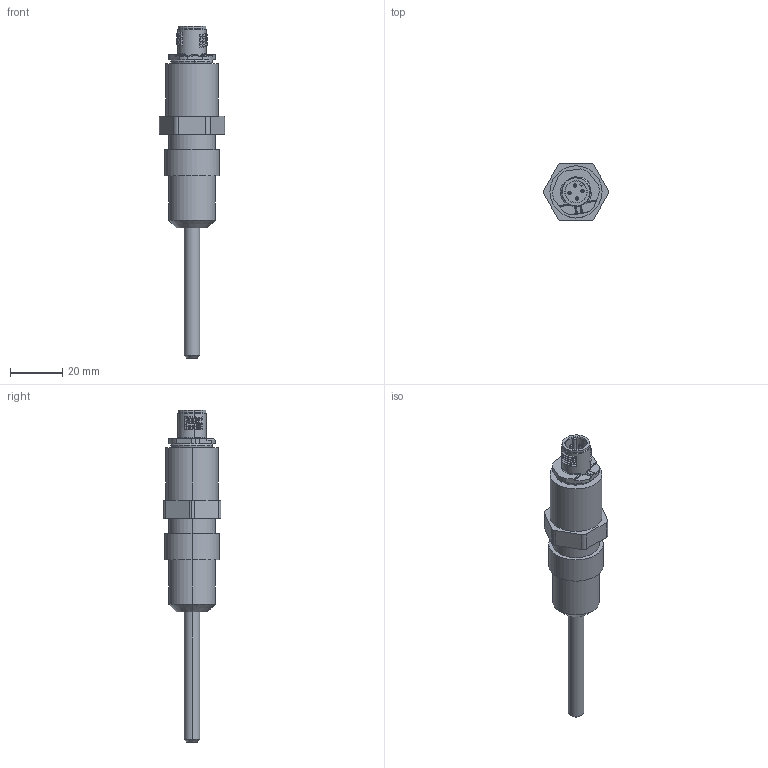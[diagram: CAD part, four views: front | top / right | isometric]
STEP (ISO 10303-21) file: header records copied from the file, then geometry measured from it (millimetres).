
FILE_DESCRIPTION (( 'STEP AP214' ), '1' );
FILE_NAME ('TF420.STEP', '2022-12-02T13:15:21', ( '' ), ( '' ), 'SwSTEP 2.0', 'SolidWorks 2015', '' );
FILE_SCHEMA (( 'AUTOMOTIVE_DESIGN' ));
Length unit declared in the file: millimetre
Products named in the file (3): Conector M12 Macho; TF420; TF420001
Assembly tree (2 placements, depth 2):
  TF420
    TF420001
    Conector M12 Macho
Bounding box: 25.04 x 22.22 x 127.59 mm (x, y, z)
Volume: 10576.7 mm3; surface area: 11532.7 mm2
Topology: 1 solids, 8 shells, 288 faces, 724 edges, 443 vertices
Faces by surface type: cylinder 98, bspline 90, plane 80, cone 20
Entity records: 15882 total; most frequent: CARTESIAN_POINT 6873, ORIENTED_EDGE 1335, DIRECTION 1144, EDGE_CURVE 712, VERTEX_POINT 443, AXIS2_PLACEMENT_3D 426, EDGE_LOOP 304, LINE 292
